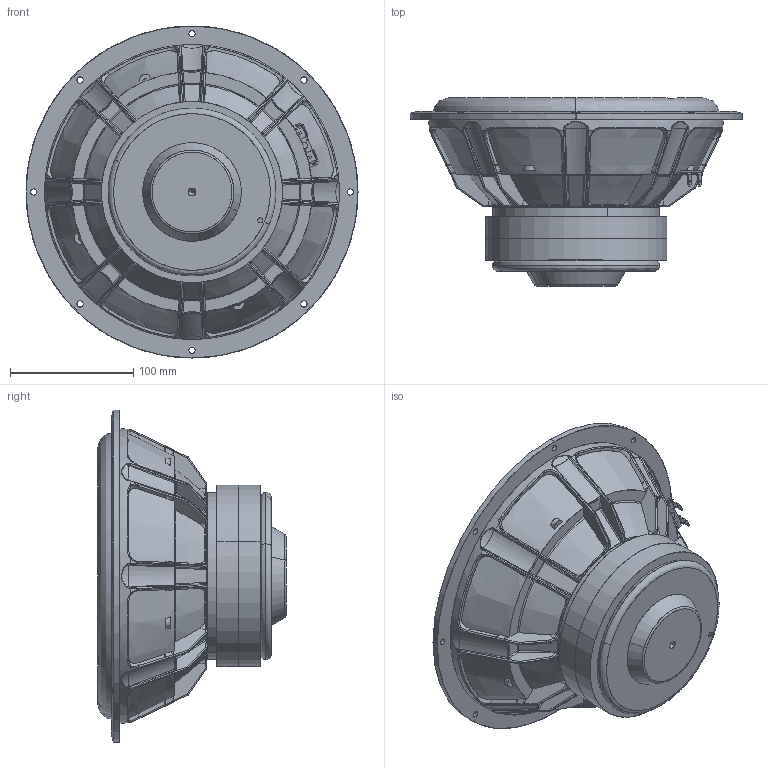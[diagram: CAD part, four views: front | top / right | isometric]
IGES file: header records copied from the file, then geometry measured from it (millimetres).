
Start section: SolidWorks IGES file using analytic representation for surfaces
Global section: file name: W:\TT\WEB 3D enheder\WEB 26W_4558T06\26W_4558T06.IGS; native system: SolidWorks 2019; preprocessor: SolidWorks 2019; author: mhn; date: 201015.082836; units: millimetre
Bounding box: 269.2 x 152.6 x 269.2 mm (x, y, z)
Surface area: 229317.7 mm2 (no closed solid volume)
Topology: 0 solids, 0 shells, 1170 faces, 12341 edges, 12294 vertices
Faces by surface type: bspline 649, revolution 521
